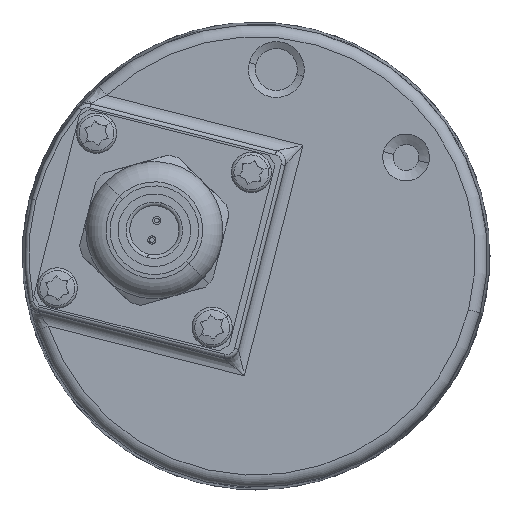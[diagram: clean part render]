
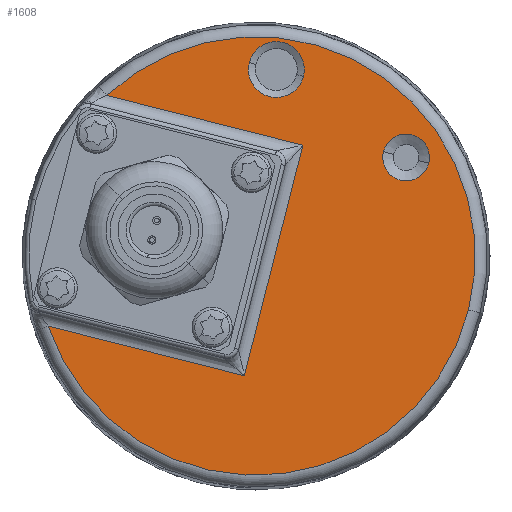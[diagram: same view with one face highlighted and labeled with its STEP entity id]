
A CAD part, left-side view. The second image highlights one B-rep face of the part: STEP entity #1608.
In plain terms, the highlighted planar face has unit normal (-1, 0, 0).
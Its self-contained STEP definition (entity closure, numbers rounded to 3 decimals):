
#1548 = VERTEX_POINT ( 'NONE', #7710 ) ;
#1566 = EDGE_CURVE ( 'NONE', #1781, #1548, #7593, .T. ) ;
#1585 = EDGE_CURVE ( 'NONE', #1807, #1810, #8035, .T. ) ;
#1588 = EDGE_CURVE ( 'NONE', #1548, #1589, #8244, .T. ) ;
#1589 = VERTEX_POINT ( 'NONE', #8240 ) ;
#1590 = ORIENTED_EDGE ( 'NONE', *, *, #1591, .T. ) ;
#1591 = EDGE_CURVE ( 'NONE', #1589, #1641, #8238, .T. ) ;
#1592 = ORIENTED_EDGE ( 'NONE', *, *, #1642, .T. ) ;
#1607 = EDGE_CURVE ( 'NONE', #1774, #1777, #8372, .T. ) ;
#1608 = ADVANCED_FACE ( 'NONE', ( #8412, #8411, #8410 ), #8395, .F. ) ;
#1609 = EDGE_LOOP ( 'NONE', ( #1610, #1685 ) ) ;
#1610 = ORIENTED_EDGE ( 'NONE', *, *, #1776, .T. ) ;
#1641 = VERTEX_POINT ( 'NONE', #8775 ) ;
#1642 = EDGE_CURVE ( 'NONE', #1641, #1643, #8773, .T. ) ;
#1643 = VERTEX_POINT ( 'NONE', #8768 ) ;
#1666 = ORIENTED_EDGE ( 'NONE', *, *, #1667, .T. ) ;
#1667 = EDGE_CURVE ( 'NONE', #1643, #1781, #9064, .T. ) ;
#1668 = ORIENTED_EDGE ( 'NONE', *, *, #1566, .T. ) ;
#1685 = ORIENTED_EDGE ( 'NONE', *, *, #1607, .T. ) ;
#1686 = EDGE_LOOP ( 'NONE', ( #1687, #1688 ) ) ;
#1687 = ORIENTED_EDGE ( 'NONE', *, *, #1809, .T. ) ;
#1688 = ORIENTED_EDGE ( 'NONE', *, *, #1585, .T. ) ;
#1689 = EDGE_LOOP ( 'NONE', ( #1690, #1590, #1592, #1666, #1668 ) ) ;
#1690 = ORIENTED_EDGE ( 'NONE', *, *, #1588, .T. ) ;
#1774 = VERTEX_POINT ( 'NONE', #9138 ) ;
#1776 = EDGE_CURVE ( 'NONE', #1777, #1774, #9137, .T. ) ;
#1777 = VERTEX_POINT ( 'NONE', #9132 ) ;
#1781 = VERTEX_POINT ( 'NONE', #9129 ) ;
#1807 = VERTEX_POINT ( 'NONE', #9512 ) ;
#1809 = EDGE_CURVE ( 'NONE', #1810, #1807, #9511, .T. ) ;
#1810 = VERTEX_POINT ( 'NONE', #9506 ) ;
#7589 = DIRECTION ( 'NONE',  ( 0., 0.246, -0.969 ) ) ;
#7590 = VECTOR ( 'NONE', #7589, 1000. ) ;
#7591 = CARTESIAN_POINT ( 'NONE',  ( -22.96, -7.082, -10.794 ) ) ;
#7593 = LINE ( 'NONE', #7591, #7590 ) ;
#7710 = CARTESIAN_POINT ( 'NONE',  ( -22.96, -6.714, -12.248 ) ) ;
#8022 = DIRECTION ( 'NONE',  ( 0., -0.969, -0.246 ) ) ;
#8023 = DIRECTION ( 'NONE',  ( 1., 0., 0. ) ) ;
#8034 = AXIS2_PLACEMENT_3D ( 'NONE', #8050, #8023, #8022 ) ;
#8035 = CIRCLE ( 'NONE', #8034, 2.899 ) ;
#8050 = CARTESIAN_POINT ( 'NONE',  ( -22.96, -26.758, 14.812 ) ) ;
#8234 = DIRECTION ( 'NONE',  ( 0., -0.969, -0.246 ) ) ;
#8235 = DIRECTION ( 'NONE',  ( -1., 0., 0. ) ) ;
#8236 = CARTESIAN_POINT ( 'NONE',  ( -22.96, -8.157, 2.603 ) ) ;
#8237 = AXIS2_PLACEMENT_3D ( 'NONE', #8236, #8235, #8234 ) ;
#8238 = CIRCLE ( 'NONE', #8237, 27.173 ) ;
#8240 = CARTESIAN_POINT ( 'NONE',  ( -22.96, 17.589, -6.088 ) ) ;
#8241 = DIRECTION ( 'NONE',  ( 0., 0.969, 0.246 ) ) ;
#8242 = VECTOR ( 'NONE', #8241, 1000. ) ;
#8243 = CARTESIAN_POINT ( 'NONE',  ( -22.96, 20.094, -5.453 ) ) ;
#8244 = LINE ( 'NONE', #8243, #8242 ) ;
#8372 = CIRCLE ( 'NONE', #8415, 3.466 ) ;
#8391 = DIRECTION ( 'NONE',  ( 0., -0.969, -0.246 ) ) ;
#8392 = DIRECTION ( 'NONE',  ( 1., 0., 0. ) ) ;
#8393 = CARTESIAN_POINT ( 'NONE',  ( -22.96, -8.157, 2.603 ) ) ;
#8394 = AXIS2_PLACEMENT_3D ( 'NONE', #8393, #8392, #8391 ) ;
#8395 = PLANE ( 'NONE',  #8394 ) ;
#8410 = FACE_OUTER_BOUND ( 'NONE', #1689, .T. ) ;
#8411 = FACE_BOUND ( 'NONE', #1686, .T. ) ;
#8412 = FACE_BOUND ( 'NONE', #1609, .T. ) ;
#8413 = DIRECTION ( 'NONE',  ( 0., -0.969, -0.246 ) ) ;
#8414 = DIRECTION ( 'NONE',  ( 1., 0., 0. ) ) ;
#8415 = AXIS2_PLACEMENT_3D ( 'NONE', #8491, #8414, #8413 ) ;
#8491 = CARTESIAN_POINT ( 'NONE',  ( -22.96, -10.676, 25.716 ) ) ;
#8768 = CARTESIAN_POINT ( 'NONE',  ( -22.96, 10.341, 22.508 ) ) ;
#8769 = DIRECTION ( 'NONE',  ( 0., -0.969, -0.246 ) ) ;
#8770 = DIRECTION ( 'NONE',  ( -1., 0., 0. ) ) ;
#8771 = CARTESIAN_POINT ( 'NONE',  ( -22.96, -8.157, 2.603 ) ) ;
#8772 = AXIS2_PLACEMENT_3D ( 'NONE', #8771, #8770, #8769 ) ;
#8773 = CIRCLE ( 'NONE', #8772, 27.173 ) ;
#8775 = CARTESIAN_POINT ( 'NONE',  ( -22.96, -34.496, -4.073 ) ) ;
#9061 = DIRECTION ( 'NONE',  ( 0., -0.969, -0.246 ) ) ;
#9062 = VECTOR ( 'NONE', #9061, 1000. ) ;
#9063 = CARTESIAN_POINT ( 'NONE',  ( -22.96, -12.507, 16.717 ) ) ;
#9064 = LINE ( 'NONE', #9063, #9062 ) ;
#9129 = CARTESIAN_POINT ( 'NONE',  ( -22.96, -13.961, 16.348 ) ) ;
#9132 = CARTESIAN_POINT ( 'NONE',  ( -22.96, -7.317, 26.568 ) ) ;
#9133 = DIRECTION ( 'NONE',  ( 0., -0.969, -0.246 ) ) ;
#9134 = DIRECTION ( 'NONE',  ( 1., 0., 0. ) ) ;
#9135 = CARTESIAN_POINT ( 'NONE',  ( -22.96, -10.676, 25.716 ) ) ;
#9136 = AXIS2_PLACEMENT_3D ( 'NONE', #9135, #9134, #9133 ) ;
#9137 = CIRCLE ( 'NONE', #9136, 3.466 ) ;
#9138 = CARTESIAN_POINT ( 'NONE',  ( -22.96, -14.036, 24.865 ) ) ;
#9506 = CARTESIAN_POINT ( 'NONE',  ( -22.96, -23.948, 15.524 ) ) ;
#9507 = DIRECTION ( 'NONE',  ( 0., -0.969, -0.246 ) ) ;
#9508 = DIRECTION ( 'NONE',  ( 1., 0., 0. ) ) ;
#9509 = CARTESIAN_POINT ( 'NONE',  ( -22.96, -26.758, 14.812 ) ) ;
#9510 = AXIS2_PLACEMENT_3D ( 'NONE', #9509, #9508, #9507 ) ;
#9511 = CIRCLE ( 'NONE', #9510, 2.899 ) ;
#9512 = CARTESIAN_POINT ( 'NONE',  ( -22.96, -29.568, 14.099 ) ) ;
